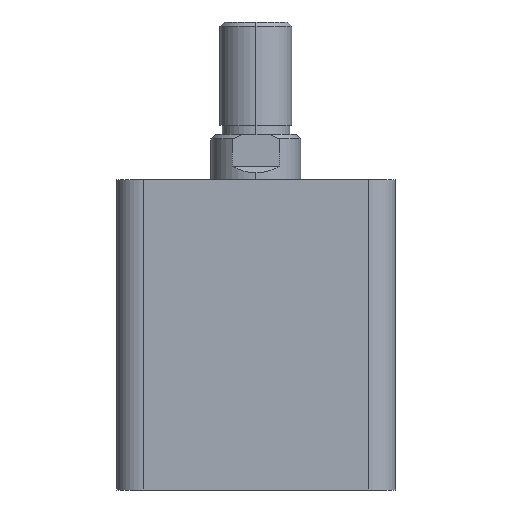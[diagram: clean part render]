
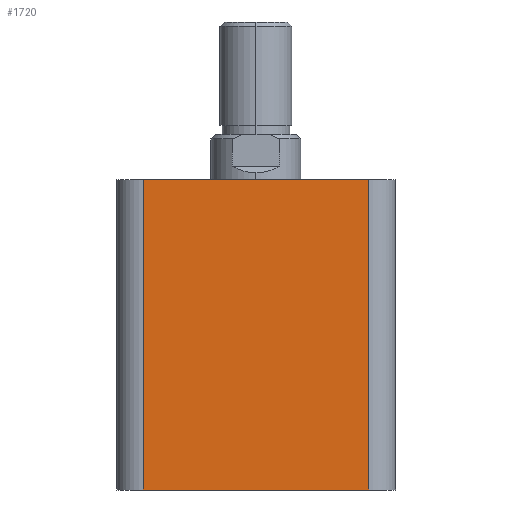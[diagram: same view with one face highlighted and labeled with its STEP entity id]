
A CAD part, left-side view. The second image highlights one B-rep face of the part: STEP entity #1720.
In plain terms, the highlighted planar face has unit normal (-1, 0, 0).
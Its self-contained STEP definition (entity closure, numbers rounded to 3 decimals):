
#242 = DIRECTION ( 'NONE',  ( 0., -1., 0. ) ) ;
#244 = CARTESIAN_POINT ( 'NONE',  ( -31., 31., 0. ) ) ;
#268 = CARTESIAN_POINT ( 'NONE',  ( -31., -25., 69. ) ) ;
#269 = DIRECTION ( 'NONE',  ( 0., 0., 1. ) ) ;
#270 = CARTESIAN_POINT ( 'NONE',  ( -31., 25., 69. ) ) ;
#271 = DIRECTION ( 'NONE',  ( 0., 0., -1. ) ) ;
#399 = CARTESIAN_POINT ( 'NONE',  ( -31., -25., 0. ) ) ;
#417 = CARTESIAN_POINT ( 'NONE',  ( -31., 25., 0. ) ) ;
#458 = CARTESIAN_POINT ( 'NONE',  ( -31., 25., 69. ) ) ;
#503 = CARTESIAN_POINT ( 'NONE',  ( -31., -25., 69. ) ) ;
#945 = ORIENTED_EDGE ( 'NONE', *, *, #2803, .T. ) ;
#1027 = ORIENTED_EDGE ( 'NONE', *, *, #2804, .T. ) ;
#1048 = ORIENTED_EDGE ( 'NONE', *, *, #2758, .F. ) ;
#1054 = ORIENTED_EDGE ( 'NONE', *, *, #2793, .T. ) ;
#1720 = ADVANCED_FACE ( 'NONE', ( #3118 ), #2323, .F. ) ;
#2004 = AXIS2_PLACEMENT_3D ( 'NONE', #2368, #2310, #2317 ) ;
#2310 = DIRECTION ( 'NONE',  ( 1., 0., 0. ) ) ;
#2317 = DIRECTION ( 'NONE',  ( 0., 0., -1. ) ) ;
#2323 = PLANE ( 'NONE',  #2004 ) ;
#2368 = CARTESIAN_POINT ( 'NONE',  ( -31., 31., 69. ) ) ;
#2758 = EDGE_CURVE ( 'NONE', #5028, #5073, #3887, .T. ) ;
#2793 = EDGE_CURVE ( 'NONE', #4989, #4971, #3929, .T. ) ;
#2803 = EDGE_CURVE ( 'NONE', #4971, #5073, #3947, .T. ) ;
#2804 = EDGE_CURVE ( 'NONE', #5028, #4989, #3950, .T. ) ;
#3118 = FACE_OUTER_BOUND ( 'NONE', #5142, .T. ) ;
#3887 = LINE ( 'NONE', #4510, #3890 ) ;
#3890 = VECTOR ( 'NONE', #4511, 1000. ) ;
#3929 = LINE ( 'NONE', #244, #3933 ) ;
#3933 = VECTOR ( 'NONE', #242, 1000. ) ;
#3947 = LINE ( 'NONE', #268, #3951 ) ;
#3950 = LINE ( 'NONE', #270, #3953 ) ;
#3951 = VECTOR ( 'NONE', #269, 1000. ) ;
#3953 = VECTOR ( 'NONE', #271, 1000. ) ;
#4510 = CARTESIAN_POINT ( 'NONE',  ( -31., 31., 69. ) ) ;
#4511 = DIRECTION ( 'NONE',  ( 0., -1., 0. ) ) ;
#4971 = VERTEX_POINT ( 'NONE', #399 ) ;
#4989 = VERTEX_POINT ( 'NONE', #417 ) ;
#5028 = VERTEX_POINT ( 'NONE', #458 ) ;
#5073 = VERTEX_POINT ( 'NONE', #503 ) ;
#5142 = EDGE_LOOP ( 'NONE', ( #1054, #945, #1048, #1027 ) ) ;
